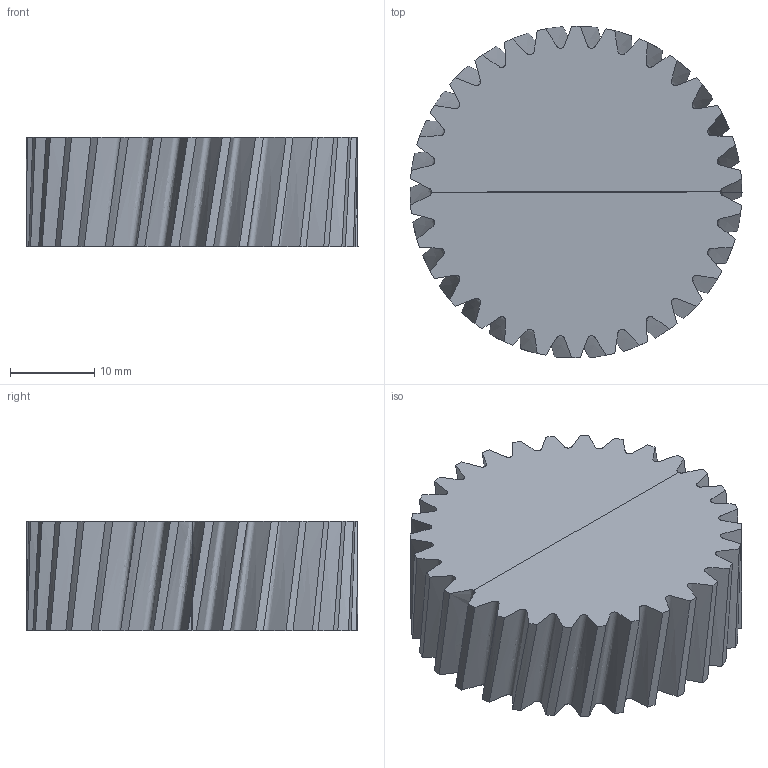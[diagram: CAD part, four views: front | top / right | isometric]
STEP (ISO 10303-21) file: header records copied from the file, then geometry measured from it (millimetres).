
FILE_DESCRIPTION(/* description */ ('Alibre Inc.'),/* implementation_level */ '2;1');
FILE_NAME(/* name */ 'export0',/* time_stamp */ '2008-08-01T12:33:16-05:00',/* author */ (''),/* organization */ (''),/* preprocessor_version */ 'ST-DEVELOPER v10',/* originating_system */ 'Alibre',/* authorisation */ '');
FILE_SCHEMA (('AUTOMOTIVE_DESIGN'));
Length unit declared in the file: centimetre
Bounding box: 39.37 x 39.36 x 12.95 mm (x, y, z)
Volume: 13447.1 mm3; surface area: 5867.2 mm2
Topology: 2 solids, 2 shells, 72 faces, 204 edges, 136 vertices
Faces by surface type: bspline 66, plane 6
Entity records: 7135 total; most frequent: CARTESIAN_POINT 5850, ORIENTED_EDGE 408, EDGE_CURVE 204, B_SPLINE_CURVE_WITH_KNOTS 200, VERTEX_POINT 136, EDGE_LOOP 72, FACE_BOUND 72, ADVANCED_FACE 72
